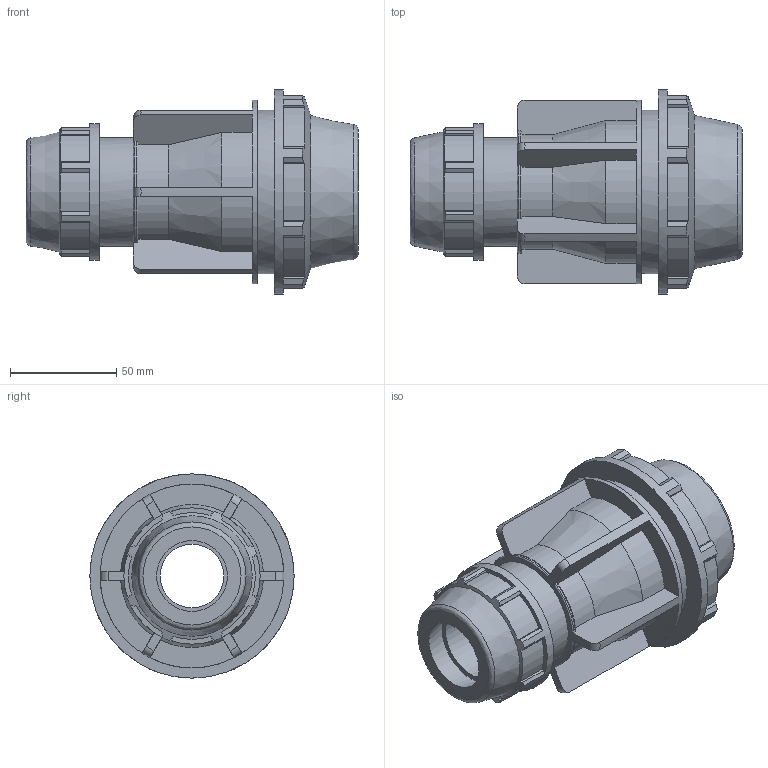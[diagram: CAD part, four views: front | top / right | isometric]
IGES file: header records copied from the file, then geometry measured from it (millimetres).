
Global section: file name: 0711M0015010.ipt; native system: Autodesk Inventor 2019; preprocessor: unknown; author: KIM; date: 20210826.124704; units: inch
Bounding box: 156 x 96.01 x 96.01 mm (x, y, z)
Volume: 337057.6 mm3; surface area: 75697.7 mm2
Topology: 1 solids, 1 shells, 213 faces, 624 edges, 421 vertices
Faces by surface type: plane 138, cylinder 45, revolution 20, cone 10
Full cylindrical faces by diameter (mm): 51.206 x1, 64.008 x1, 76.81 x1, 86.411 x1, 96.012 x1
